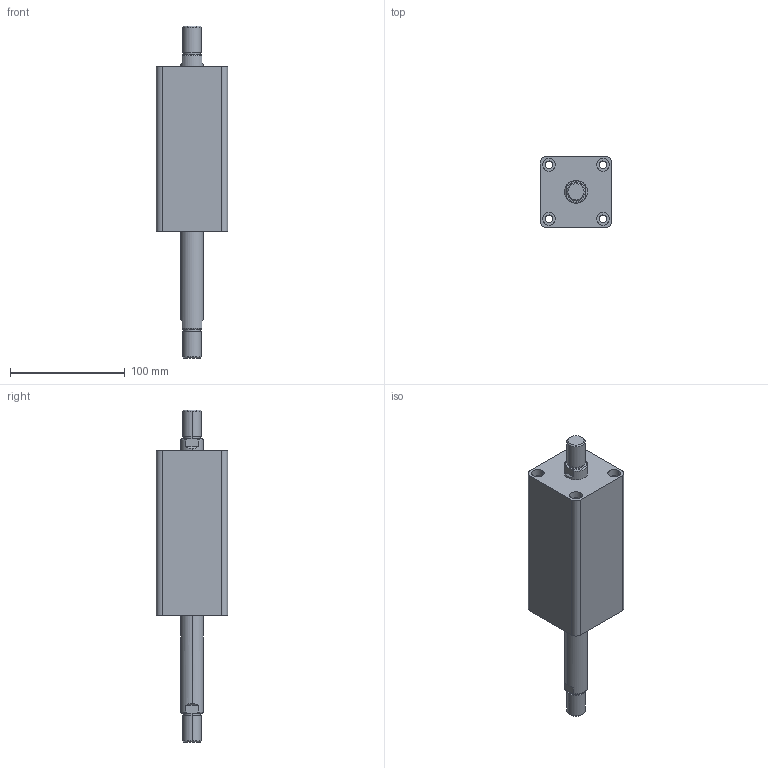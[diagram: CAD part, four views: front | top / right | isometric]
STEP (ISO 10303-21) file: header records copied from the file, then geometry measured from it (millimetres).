
FILE_DESCRIPTION (( 'STEP AP203' ), '1' );
FILE_NAME ('HTB-SW32-75W.STEP', '2019-10-07T08:58:36', ( '微软用户' ), ( '微软中国' ), 'SwSTEP 2.0', 'SolidWorks 2012', '' );
FILE_SCHEMA (( 'CONFIG_CONTROL_DESIGN' ));
Length unit declared in the file: millimetre
Products named in the file (3): HTB-SW32-75W; HTB-SW32-75W活塞杆; HTB-SW32-75掛极
Assembly tree (2 placements, depth 2):
  HTB-SW32-75W
    HTB-SW32-75掛极
    HTB-SW32-75W活塞杆
Bounding box: 62 x 62 x 289 mm (x, y, z)
Volume: 526834.7 mm3; surface area: 88214.1 mm2
Topology: 2 solids, 2 shells, 108 faces, 240 edges, 156 vertices
Faces by surface type: cylinder 52, plane 36, torus 12, cone 8
Entity records: 3449 total; most frequent: CARTESIAN_POINT 629, DIRECTION 586, ORIENTED_EDGE 480, AXIS2_PLACEMENT_3D 249, EDGE_CURVE 240, VERTEX_POINT 156, EDGE_LOOP 138, CIRCLE 136
